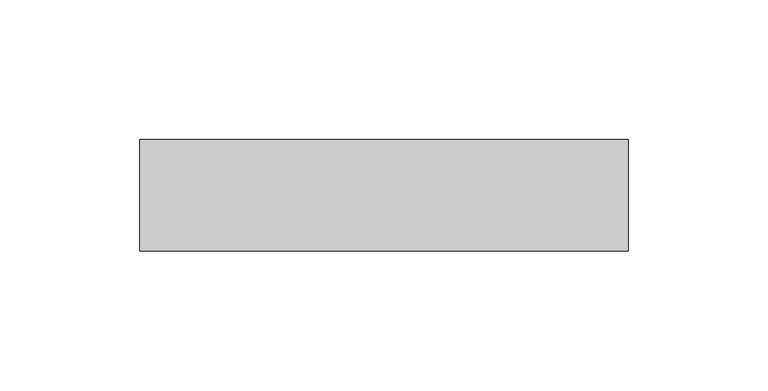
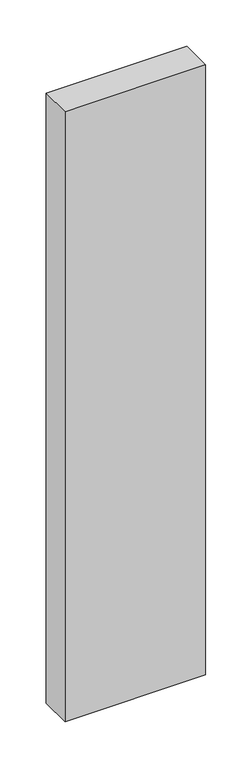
"""IFC4 building model written with IfcOpenShell, lengths in millimetres: plate geometry, Vitré."""

from ifc_helpers import new_model, si_unit, origin, origin_with_axes, place, context, project, spatial, polyline, outline, extrude, source, transform, mapped, element, save


def plate_a22db379(model_context):
    return source(origin(), model_context, "Body", "SweptSolid", [
        extrude(outline(polyline([(-87.5008201, -20.0), (-87.5008201, 20.0), (87.5008201, 20.0), (87.5008201, -20.0), (-87.5008201, -20.0)])), origin_with_axes(), (0.0, 0.0, 1.0), 801.2351114),
    ])


if __name__ == "__main__":
    model = new_model("IFC4")
    model_context = context("Model", 3, world=origin())
    ifc_project = project(units=[si_unit("LENGTHUNIT", "METRE", prefix="MILLI")], contexts=[model_context])
    site = spatial("IfcSite", under=ifc_project)
    building = spatial("IfcBuilding", under=site)
    placement = place(None, origin())
    plate_shape = plate_a22db379(model_context)
    element("IfcPlate", 1, ObjectType="Vitré", at=placement, inside=building, context=model_context, shape_type="MappedRepresentation", body=[
        mapped(plate_shape, transform((0.0, 0.0, 0.0), x_axis=(1.0, 0.0, 0.0), y_axis=(0.0, 1.0, 0.0), z_axis=(0.0, 0.0, 1.0))),
    ])
    save(model, "model.ifc")
